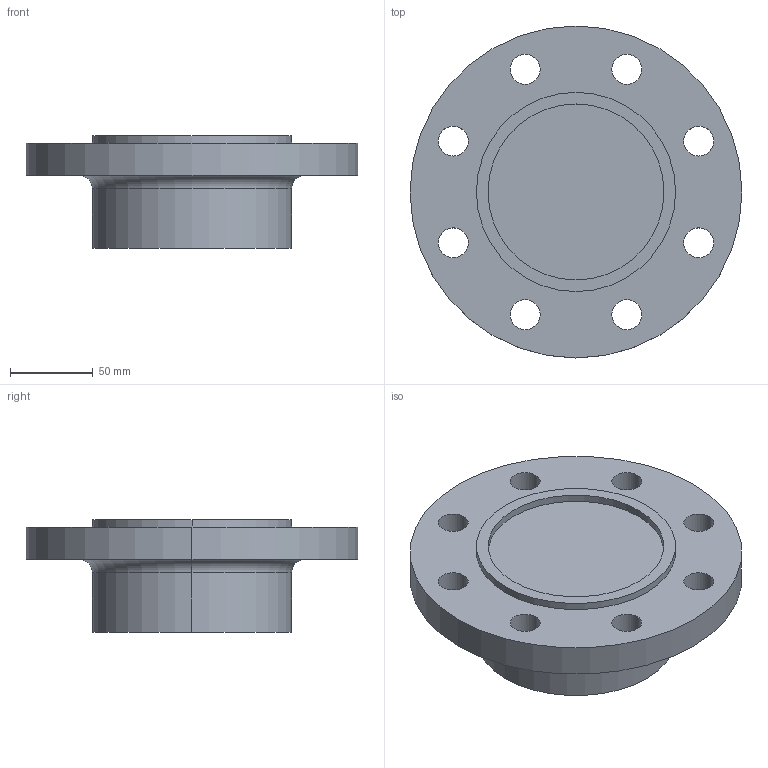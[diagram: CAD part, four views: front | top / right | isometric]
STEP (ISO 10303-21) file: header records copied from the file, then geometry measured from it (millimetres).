
FILE_DESCRIPTION (( 'STEP AP214' ), '1' );
FILE_NAME ('PN40 DN80 Type 21(i) - Type C Face.STEP', '2019-01-01T19:35:50', ( '' ), ( '' ), 'SwSTEP 2.0', 'SolidWorks 2019', '' );
FILE_SCHEMA (( 'AUTOMOTIVE_DESIGN' ));
Length unit declared in the file: millimetre
Products named in the file (1): PN40 DN80 Type 21(i) - Type C Face
Bounding box: 200 x 200 x 68 mm (x, y, z)
Volume: 1087056.2 mm3; surface area: 98350.8 mm2
Topology: 1 solids, 1 shells, 31 faces, 76 edges, 50 vertices
Faces by surface type: cylinder 24, plane 5, torus 2
Entity records: 1012 total; most frequent: DIRECTION 192, CARTESIAN_POINT 158, ORIENTED_EDGE 152, AXIS2_PLACEMENT_3D 84, EDGE_CURVE 76, CIRCLE 52, VERTEX_POINT 50, EDGE_LOOP 50
